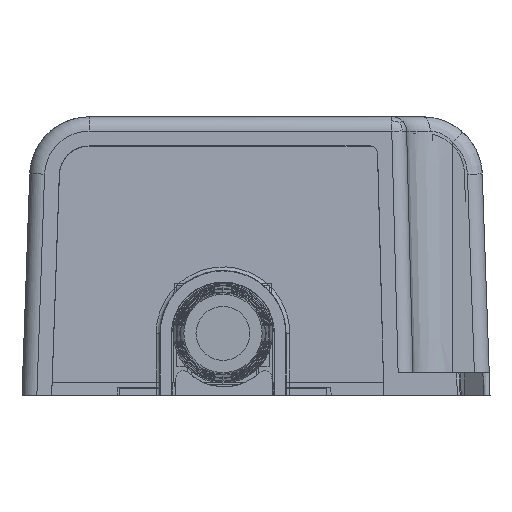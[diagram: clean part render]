
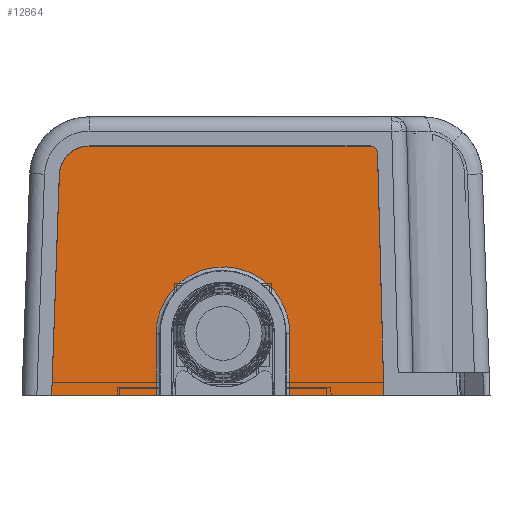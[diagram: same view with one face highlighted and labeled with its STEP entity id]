
A CAD part, front view. The second image highlights one B-rep face of the part: STEP entity #12864.
In plain terms, the highlighted planar face has unit normal (0, -0.999, 0.035).
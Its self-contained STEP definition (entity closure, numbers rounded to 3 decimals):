
#174=DIRECTION('',(1.,0.,0.));
#175=VECTOR('',#174,14.143);
#176=CARTESIAN_POINT('',(25.342,-95.593,
0.));
#177=LINE('',#176,#175);
#379=DIRECTION('',(1.,0.,0.));
#380=VECTOR('',#379,12.731);
#381=CARTESIAN_POINT('',(57.576,-95.593,
0.));
#382=LINE('',#381,#380);
#3294=DIRECTION('',(0.,0.035,0.999));
#3295=VECTOR('',#3294,8.329);
#3296=CARTESIAN_POINT('',(39.486,-95.593,
0.));
#3297=LINE('',#3296,#3295);
#3301=DIRECTION('',(0.035,0.035,0.999));
#3302=VECTOR('',#3301,29.997);
#3303=CARTESIAN_POINT('',(25.342,-95.593,
0.));
#3304=LINE('',#3303,#3302);
#3308=CARTESIAN_POINT('',(26.392,-94.547,29.961));
#3309=CARTESIAN_POINT('',(26.414,-94.535,30.305));
#3310=CARTESIAN_POINT('',(26.542,-94.512,30.963));
#3311=CARTESIAN_POINT('',(26.978,-94.48,31.887));
#3312=CARTESIAN_POINT('',(27.627,-94.452,32.667));
#3313=CARTESIAN_POINT('',(28.448,-94.431,33.264));
#3314=CARTESIAN_POINT('',(29.399,-94.418,33.639));
#3315=CARTESIAN_POINT('',(30.064,-94.415,33.725));
#3316=CARTESIAN_POINT('',(30.412,-94.415,33.724));
#3321=DIRECTION('',(1.,0.,0.));
#3322=VECTOR('',#3321,38.031);
#3323=CARTESIAN_POINT('',(30.412,-94.415,33.724));
#3324=LINE('',#3323,#3322);
#3328=CARTESIAN_POINT('',(68.442,-94.415,33.725));
#3329=CARTESIAN_POINT('',(68.576,-94.415,33.725));
#3330=CARTESIAN_POINT('',(68.823,-94.417,33.674));
#3331=CARTESIAN_POINT('',(69.157,-94.425,33.456));
#3332=CARTESIAN_POINT('',(69.385,-94.436,33.128));
#3333=CARTESIAN_POINT('',(69.443,-94.445,32.881));
#3334=CARTESIAN_POINT('',(69.447,-94.45,32.747));
#3339=DIRECTION('',(0.026,-0.035,-0.999));
#3340=VECTOR('',#3339,32.778);
#3341=CARTESIAN_POINT('',(69.447,-94.45,32.747));
#3342=LINE('',#3341,#3340);
#3354=CARTESIAN_POINT('',(39.486,-95.302,8.324));
#3355=CARTESIAN_POINT('',(39.482,-95.28,8.97));
#3356=CARTESIAN_POINT('',(39.62,-95.235,10.246));
#3357=CARTESIAN_POINT('',(40.259,-95.168,12.177));
#3358=CARTESIAN_POINT('',(41.345,-95.106,13.944));
#3359=CARTESIAN_POINT('',(42.753,-95.056,15.383));
#3360=CARTESIAN_POINT('',(44.494,-95.017,16.507));
#3361=CARTESIAN_POINT('',(46.432,-94.992,17.201));
#3362=CARTESIAN_POINT('',(48.47,-94.984,17.447));
#3363=CARTESIAN_POINT('',(50.51,-94.991,17.228));
#3364=CARTESIAN_POINT('',(52.449,-95.015,16.563));
#3365=CARTESIAN_POINT('',(54.2,-95.053,15.471));
#3366=CARTESIAN_POINT('',(55.649,-95.103,14.032));
#3367=CARTESIAN_POINT('',(56.762,-95.165,12.268));
#3368=CARTESIAN_POINT('',(57.433,-95.233,10.308));
#3369=CARTESIAN_POINT('',(57.578,-95.279,8.994));
#3370=CARTESIAN_POINT('',(57.576,-95.302,8.324));
#3383=CARTESIAN_POINT('',(57.576,-95.593,
0.));
#3394=DIRECTION('',(0.,-0.035,-0.999));
#3395=VECTOR('',#3394,8.329);
#3396=CARTESIAN_POINT('',(57.576,-95.302,8.324));
#3397=LINE('',#3396,#3395);
#8731=CARTESIAN_POINT('',(25.342,-95.593,
0.));
#8732=VERTEX_POINT('',#8731);
#8733=CARTESIAN_POINT('',(39.486,-95.593,
0.));
#8734=VERTEX_POINT('',#8733);
#8844=VERTEX_POINT('',#3383);
#8845=CARTESIAN_POINT('',(70.307,-95.593,
0.));
#8846=VERTEX_POINT('',#8845);
#9718=CARTESIAN_POINT('',(39.486,-95.302,8.324));
#9719=VERTEX_POINT('',#9718);
#9720=VERTEX_POINT('',#3370);
#9721=CARTESIAN_POINT('',(26.392,-94.547,29.961));
#9722=VERTEX_POINT('',#9721);
#9723=VERTEX_POINT('',#3316);
#9724=CARTESIAN_POINT('',(68.442,-94.415,33.725));
#9725=VERTEX_POINT('',#9724);
#9726=VERTEX_POINT('',#3334);
#12840=CARTESIAN_POINT('',(58.763,-94.75,
24.155));
#12841=DIRECTION('',(0.,-0.999,0.035));
#12842=DIRECTION('',(0.,0.035,0.999));
#12843=AXIS2_PLACEMENT_3D('',#12840,#12841,#12842);
#12844=PLANE('',#12843);
#12846=ORIENTED_EDGE('',*,*,#12845,.F.);
#12847=ORIENTED_EDGE('',*,*,#12825,.F.);
#12848=ORIENTED_EDGE('',*,*,#10233,.F.);
#12850=ORIENTED_EDGE('',*,*,#12849,.T.);
#12852=ORIENTED_EDGE('',*,*,#12851,.T.);
#12854=ORIENTED_EDGE('',*,*,#12853,.T.);
#12856=ORIENTED_EDGE('',*,*,#12855,.T.);
#12858=ORIENTED_EDGE('',*,*,#12857,.T.);
#12859=ORIENTED_EDGE('',*,*,#10420,.F.);
#12861=ORIENTED_EDGE('',*,*,#12860,.F.);
#12862=EDGE_LOOP('',(#12846,#12847,#12848,#12850,#12852,#12854,#12856,#12858,
#12859,#12861));
#12863=FACE_OUTER_BOUND('',#12862,.F.);
#3317=B_SPLINE_CURVE_WITH_KNOTS('',3,(#3308,#3309,#3310,#3311,#3312,#3313,#3314,
#3315,#3316),.UNSPECIFIED.,.F.,.F.,(4,1,1,1,1,1,4),(0.,0.167,
0.333,0.5,0.667,0.833,1.),
.UNSPECIFIED.);
#3335=B_SPLINE_CURVE_WITH_KNOTS('',3,(#3328,#3329,#3330,#3331,#3332,#3333,
#3334),.UNSPECIFIED.,.F.,.F.,(4,1,1,1,4),(0.,0.25,0.5,0.75,1.),
.UNSPECIFIED.);
#3371=B_SPLINE_CURVE_WITH_KNOTS('',3,(#3354,#3355,#3356,#3357,#3358,#3359,#3360,
#3361,#3362,#3363,#3364,#3365,#3366,#3367,#3368,#3369,#3370),.UNSPECIFIED.,.F.,
.F.,(4,1,1,1,1,1,1,1,1,1,1,1,1,1,4),(0.,0.071,0.143,
0.214,0.286,0.357,0.429,0.5,
0.571,0.643,0.714,0.786,
0.857,0.929,1.),.UNSPECIFIED.);
#10233=EDGE_CURVE('',#8732,#8734,#177,.T.);
#10420=EDGE_CURVE('',#8844,#8846,#382,.T.);
#12825=EDGE_CURVE('',#8734,#9719,#3297,.T.);
#12845=EDGE_CURVE('',#9719,#9720,#3371,.T.);
#12849=EDGE_CURVE('',#8732,#9722,#3304,.T.);
#12851=EDGE_CURVE('',#9722,#9723,#3317,.T.);
#12853=EDGE_CURVE('',#9723,#9725,#3324,.T.);
#12855=EDGE_CURVE('',#9725,#9726,#3335,.T.);
#12857=EDGE_CURVE('',#9726,#8846,#3342,.T.);
#12860=EDGE_CURVE('',#9720,#8844,#3397,.T.);
#12864=ADVANCED_FACE('',(#12863),#12844,.T.);
